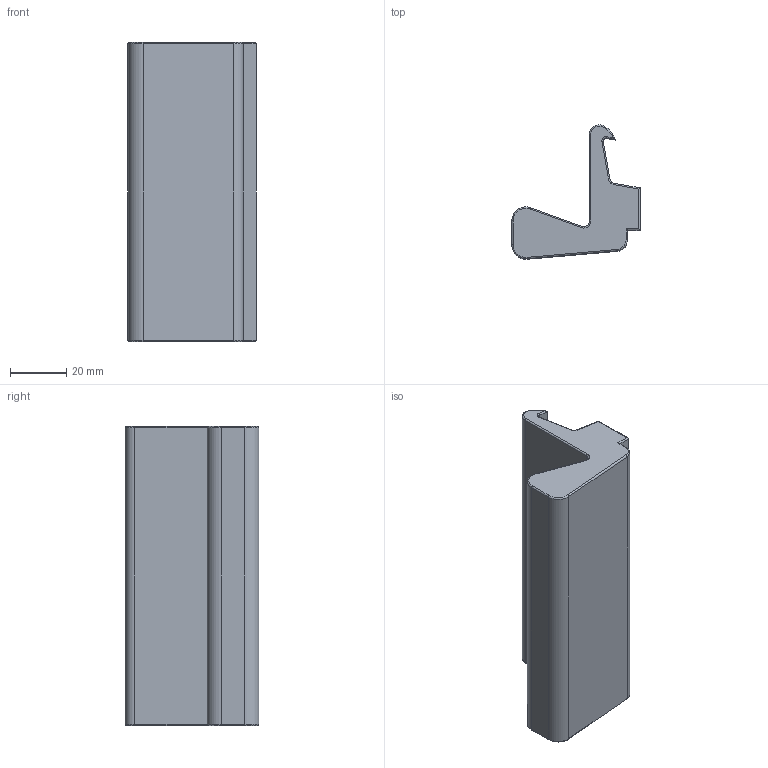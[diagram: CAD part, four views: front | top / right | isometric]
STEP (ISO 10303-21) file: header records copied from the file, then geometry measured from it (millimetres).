
FILE_DESCRIPTION (( 'STEP AP214' ), '1' );
FILE_NAME ('F31161A.step', '2024-12-03T16:17:24', ( '' ), ( '' ), 'SwSTEP 2.0', 'SolidWorks 2023', '' );
FILE_SCHEMA (( 'AUTOMOTIVE_DESIGN' ));
Length unit declared in the file: millimetre
Products named in the file (1): F31161A
Bounding box: 45.5 x 47.5 x 106 mm (x, y, z)
Volume: 95441.7 mm3; surface area: 22226.5 mm2
Topology: 1 solids, 1 shells, 64 faces, 141 edges, 81 vertices
Faces by surface type: cylinder 32, torus 16, plane 14, cone 2
Full cylindrical faces by diameter (mm): 4 x2, 12 x2
Entity records: 1741 total; most frequent: DIRECTION 324, CARTESIAN_POINT 317, ORIENTED_EDGE 268, EDGE_CURVE 134, AXIS2_PLACEMENT_3D 133, VERTEX_POINT 80, EDGE_LOOP 72, CIRCLE 68
